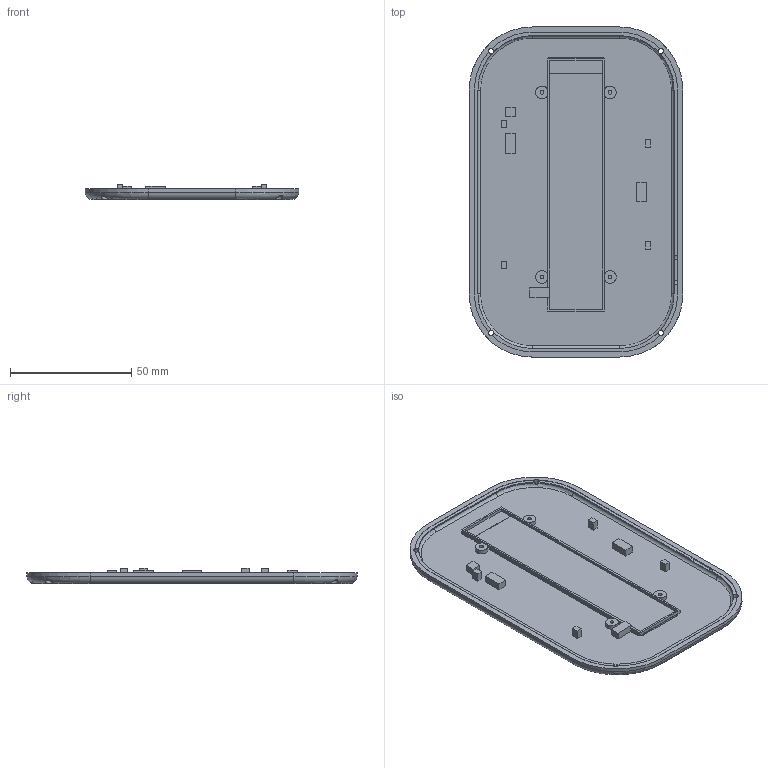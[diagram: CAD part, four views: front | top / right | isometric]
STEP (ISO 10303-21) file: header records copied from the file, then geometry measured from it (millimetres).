
FILE_DESCRIPTION(('Open CASCADE Model'),'2;1');
FILE_NAME('Open CASCADE Shape Model','2026-09-09T12:58:10',('Author'),( 'Open CASCADE'),'Open CASCADE STEP processor 7.9','Open CASCADE 7.9' ,'Unknown');
FILE_SCHEMA(('AUTOMOTIVE_DESIGN { 1 0 10303 214 1 1 1 1 }'));
Length unit declared in the file: millimetre
Products named in the file (1): Open CASCADE STEP translator 7.9 2
Bounding box: 88 x 136 x 6.18 mm (x, y, z)
Volume: 32500 mm3; surface area: 26085.9 mm2
Topology: 1 solids, 1 shells, 195 faces, 552 edges, 366 vertices
Faces by surface type: plane 135, cylinder 52, torus 8
Full cylindrical faces by diameter (mm): 1.6 x4, 2.2 x4, 4.4 x4
Entity records: 15178 total; most frequent: CARTESIAN_POINT 4971, DIRECTION 1695, ORIENTED_EDGE 1104, PCURVE 1104, DEFINITIONAL_REPRESENTATION 1104, LINE 930, VECTOR 930, EDGE_CURVE 552
